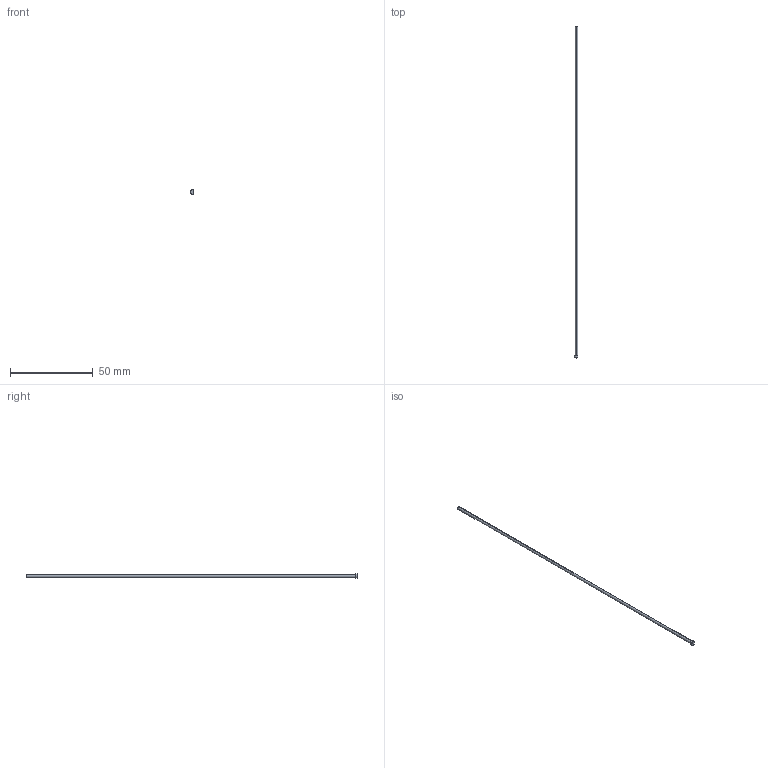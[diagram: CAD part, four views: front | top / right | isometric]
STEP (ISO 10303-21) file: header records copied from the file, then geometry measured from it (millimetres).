
FILE_DESCRIPTION (( 'STEP AP203' ), '1' );
FILE_NAME ('EPD018L200-K.step', '2022-04-08T15:27:02', ( 'Microsoft Corporation' ), ( 'MS' ), 'SwSTEP 2.0', 'SolidWorks 2019', '' );
FILE_SCHEMA (( 'CONFIG_CONTROL_DESIGN' ));
Length unit declared in the file: millimetre
Products named in the file (1): EPD018L200-K
Bounding box: 2.4 x 200 x 3 mm (x, y, z)
Volume: 514 mm3; surface area: 1146.1 mm2
Topology: 1 solids, 1 shells, 18 faces, 41 edges, 25 vertices
Faces by surface type: cone 6, cylinder 5, plane 4, torus 3
Entity records: 598 total; most frequent: CARTESIAN_POINT 107, DIRECTION 95, ORIENTED_EDGE 82, EDGE_CURVE 41, AXIS2_PLACEMENT_3D 41, VERTEX_POINT 25, CIRCLE 22, EDGE_LOOP 18
